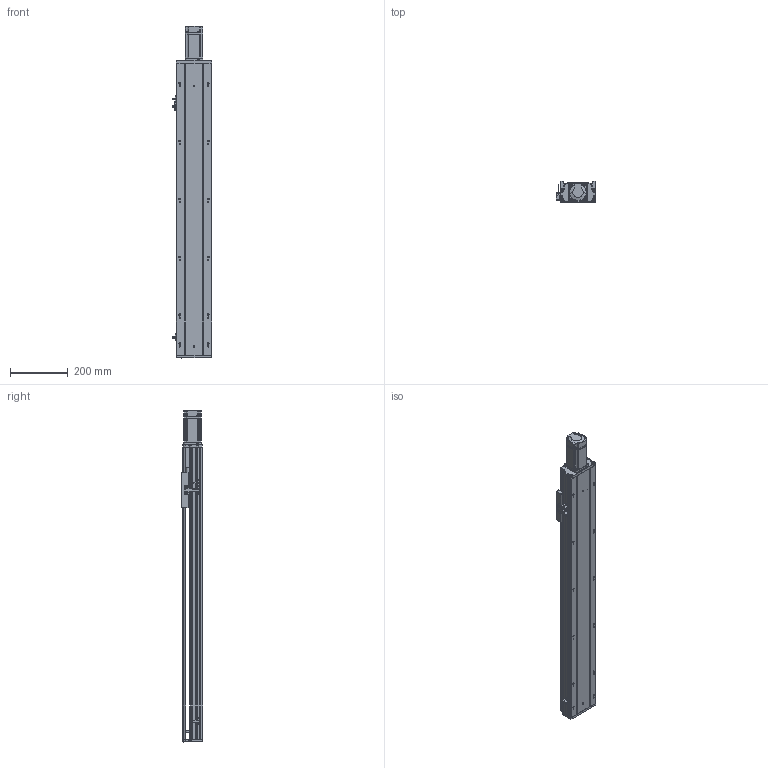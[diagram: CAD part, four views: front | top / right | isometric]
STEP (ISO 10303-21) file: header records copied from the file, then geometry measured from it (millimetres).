
FILE_DESCRIPTION (( 'STEP AP203' ), '1' );
FILE_NAME ('RY120Q-L1610-500-MK.SLDASM_0750.step', '2021-05-19T01:45:12', ( '盈信电脑' ), ( '东莞市道滘镇水果街19号' ), 'SwSTEP 2.0', 'SolidWorks 2016', '' );
FILE_SCHEMA (( 'CONFIG_CONTROL_DESIGN' ));
Length unit declared in the file: millimetre
Products named in the file (14): RY120铝滑块16丝杆（FK12）; RY120-500-MK倰第菁釱_0750; 滅袉蝶18-10; 侂狟400W侜督萇儂; RY120外置感应片(140共用）; 鞠褒坶踡蹟譫BK12 ; 滅袉蝶18-15; RY120Q-L1610-500-MK.SLDASM_0750; RY120萇儂釱FK12; RY120綴裔啣; RY120QGB-1.8; RY120-500-MK倰第奻裔啣_0750; 覜茼ん672; 15
Assembly tree (16 placements, depth 3):
  RY120Q-L1610-500-MK.SLDASM_0750
    RY120-500-MK倰第菁釱_0750
    RY120-500-MK倰第奻裔啣_0750
    侂狟400W侜督萇儂
      15
    鞠褒坶踡蹟譫BK12 
    RY120綴裔啣
    覜茼ん672  x3
    滅袉蝶18-10
    滅袉蝶18-15  x2
    RY120外置感应片(140共用）
    RY120QGB-1.8
    RY120铝滑块16丝杆（FK12）
    RY120萇儂釱FK12
Bounding box: 135.7 x 74 x 1148.5 mm (x, y, z)
Volume: 3078069.4 mm3; surface area: 1074770 mm2
Topology: 16 solids, 16 shells, 2240 faces, 6151 edges, 3922 vertices
Faces by surface type: plane 1019, cylinder 875, cone 245, bspline 101
Entity records: 73701 total; most frequent: CARTESIAN_POINT 20637, ORIENTED_EDGE 11022, DIRECTION 10387, EDGE_CURVE 5511, VERTEX_POINT 3590, AXIS2_PLACEMENT_3D 3584, LINE 3219, VECTOR 3219
